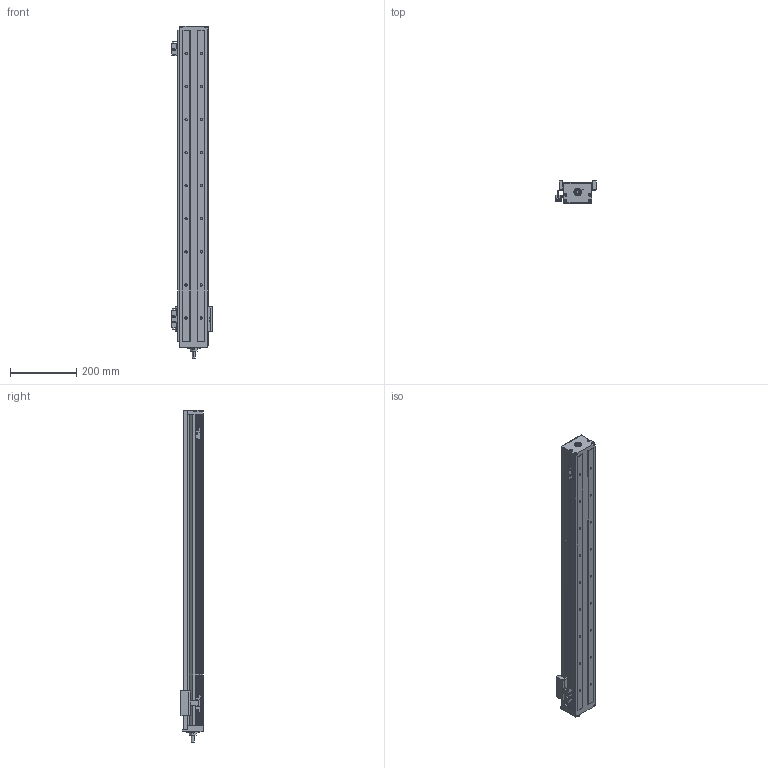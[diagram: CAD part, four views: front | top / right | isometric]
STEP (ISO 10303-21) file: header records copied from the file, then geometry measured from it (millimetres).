
FILE_DESCRIPTION (( 'STEP AP214' ), '1' );
FILE_NAME ('KK86-940A1-H0DS2.STEP', '2023-04-04T05:45:25', ( '微软用户' ), ( '微软中国' ), 'SwSTEP 2.0', 'SolidWorks 2018', '' );
FILE_SCHEMA (( 'AUTOMOTIVE_DESIGN' ));
Length unit declared in the file: millimetre
Products named in the file (11): SFKK86-H0_KKR86-ZT-P-940; KK86-940A1-H0DS2; 开关固定座：KK-674S2-F; KK-86-CU-740祥凄詩裔啣_940; KK86-S2-S2準梓覜茼え; KK86-耜啣_940; SX674嫖萇羲壽; KK-86-FS 準梓嘐隅す怢; 极限轨道与开关固定座组合_940; SFKK86-LR 憤癹寢耋_940; SFKK86-A1
Assembly tree (14 placements, depth 3):
  KK86-940A1-H0DS2
    SFKK86-H0_KKR86-ZT-P-940
    SFKK86-A1
    极限轨道与开关固定座组合_940
      SFKK86-LR 憤癹寢耋_940
      开关固定座：KK-674S2-F  x2
    SX674嫖萇羲壽  x3
    KK-86-FS 準梓嘐隅す怢
    KK-86-CU-740祥凄詩裔啣_940
    KK86-耜啣_940  x2
    KK86-S2-S2準梓覜茼え
Bounding box: 122.25 x 68 x 1004 mm (x, y, z)
Volume: 2075137.4 mm3; surface area: 856208.8 mm2
Topology: 30 solids, 30 shells, 1721 faces, 4435 edges, 2779 vertices
Faces by surface type: plane 811, cylinder 630, cone 212, torus 43, sphere 15, bspline 10
Entity records: 59515 total; most frequent: CARTESIAN_POINT 14978, DIRECTION 8202, ORIENTED_EDGE 7896, EDGE_CURVE 3948, AXIS2_PLACEMENT_3D 2900, VERTEX_POINT 2523, VECTOR 2402, LINE 2402
